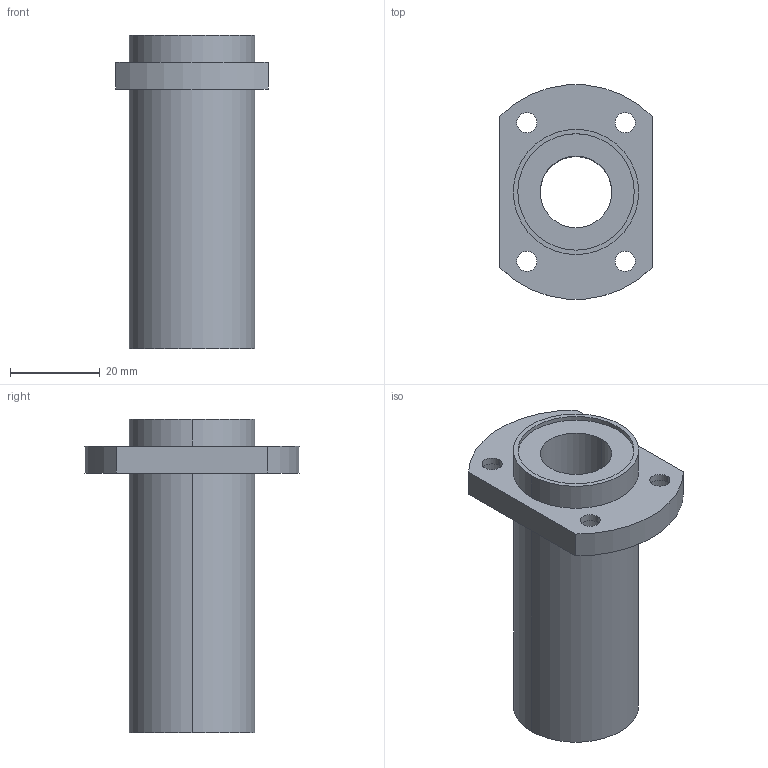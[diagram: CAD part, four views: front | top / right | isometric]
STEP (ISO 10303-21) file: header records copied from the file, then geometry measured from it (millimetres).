
FILE_DESCRIPTION((''),'2;1');
FILE_NAME('C:\Documents and Settings\ｿﾀﾀ蠑ｷ1\ｹﾙﾅﾁ ﾈｭｸ饅\ｺﾎﾇｰﾆﾄﾀﾏ\ﾁｦﾇｰ\LMHP__LUU\LMHP16LUU.stp','2005-06-15T12:04:50',('ｿﾀﾀ蠑ｷ1'),(''),'Autodesk Inventor 9','Autodesk Inventor 9','');
FILE_SCHEMA(('AUTOMOTIVE_DESIGN { 1 0 10303 214 1 1 1 1 }'));
Length unit declared in the file: millimetre
Products named in the file (1): LMHP__
Bounding box: 34 x 47.82 x 70 mm (x, y, z)
Volume: 32584.3 mm3; surface area: 13040.1 mm2
Topology: 1 solids, 1 shells, 40 faces, 90 edges, 60 vertices
Faces by surface type: cylinder 28, plane 12
Entity records: 1193 total; most frequent: DIRECTION 228, CARTESIAN_POINT 191, ORIENTED_EDGE 180, AXIS2_PLACEMENT_3D 97, EDGE_CURVE 90, VERTEX_POINT 60, EDGE_LOOP 58, CIRCLE 56
